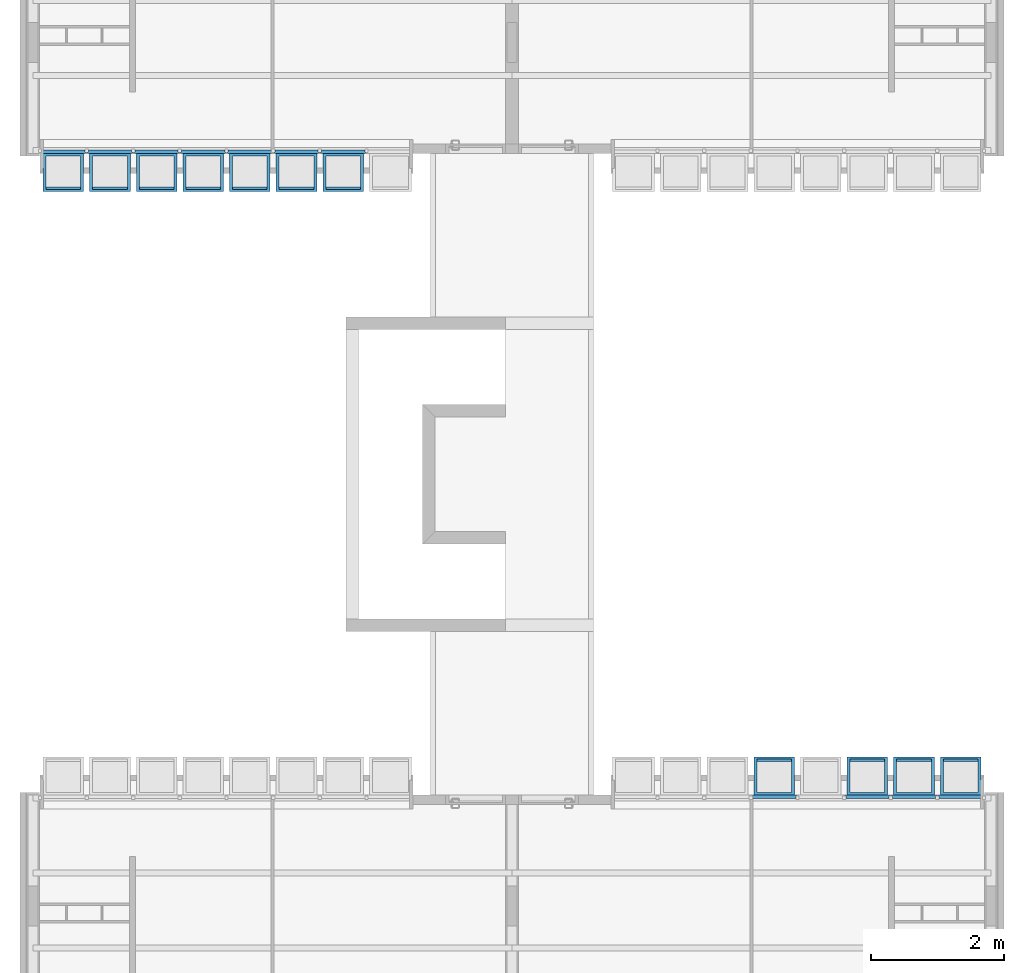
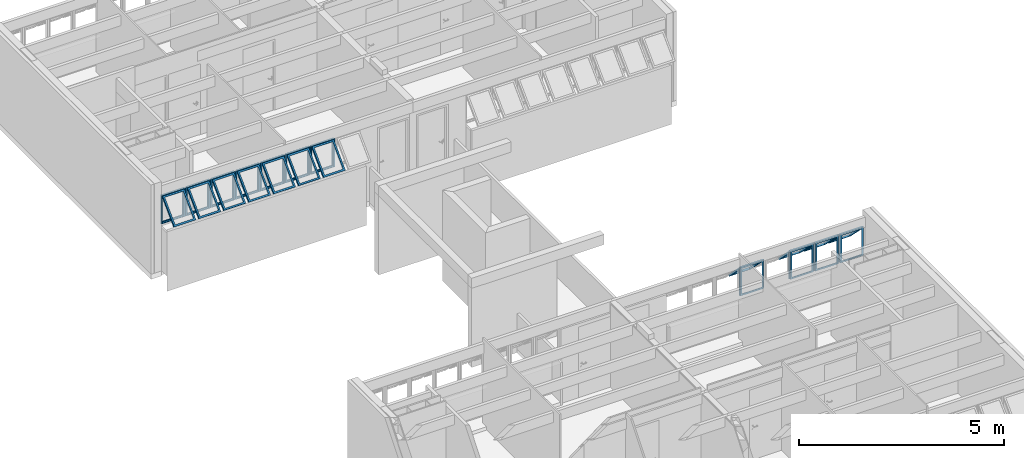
# One storey, part 31 of 37: 11 building element parts, 13 elements without a shape of their own.
"""IFC2X3 building model written with IfcOpenShell, lengths in millimetres."""

from ifc_helpers import new_model, entity, si_unit, converted_unit, derived_unit, money_unit, direction, frame, origin_with_axes, place, context, subcontext, project, spatial, faceted_brep, source, transform, mapped, material, type_object, element, aggregate, save


model = new_model("IFC2X3")

# Units and contexts
model_context = context("Model", 3, precision=0.01, world=origin_with_axes(), true_north=direction((0.0, 1.0)))
body_context = subcontext(model_context, "Body", "Model", "MODEL_VIEW")
ifc_project = project(units=[si_unit("LENGTHUNIT", "METRE", prefix="MILLI"), si_unit("AREAUNIT", "SQUARE_METRE"), si_unit("VOLUMEUNIT", "CUBIC_METRE"), converted_unit("PLANEANGLEUNIT", "DEGREE", entity("IfcPlaneAngleMeasure", 0.0174532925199), si_unit("PLANEANGLEUNIT", "RADIAN"), dimensions=[0, 0, 0, 0, 0, 0, 0]), money_unit("USD"), converted_unit("TIMEUNIT", "Year", entity("IfcTimeMeasure", 31556926.0), si_unit("TIMEUNIT", "SECOND"), dimensions=[0, 0, 1, 0, 0, 0, 0]), si_unit("MASSUNIT", "GRAM", prefix="KILO"), si_unit("THERMODYNAMICTEMPERATUREUNIT", "DEGREE_CELSIUS"), si_unit("LUMINOUSINTENSITYUNIT", "LUMEN"), si_unit("ENERGYUNIT", "JOULE", prefix="MEGA"), derived_unit("THERMALCONDUCTANCEUNIT", [(si_unit("POWERUNIT", "WATT"), 1), (si_unit("LENGTHUNIT", "METRE"), -1), (si_unit("THERMODYNAMICTEMPERATUREUNIT", "KELVIN"), -1)]), derived_unit("SPECIFICHEATCAPACITYUNIT", [(si_unit("ENERGYUNIT", "JOULE"), 1), (si_unit("MASSUNIT", "GRAM", prefix="KILO"), -1), (si_unit("THERMODYNAMICTEMPERATUREUNIT", "KELVIN"), -1)]), derived_unit("MASSDENSITYUNIT", [(si_unit("MASSUNIT", "GRAM", prefix="KILO"), 1), (si_unit("VOLUMEUNIT", "CUBIC_METRE"), -1)])], contexts=[model_context])

# Site, building, storey
site_placement = place(None, origin_with_axes())
site = spatial("IfcSite", under=ifc_project, at=site_placement, Name="Local", CompositionType="ELEMENT")
building_placement = place(site_placement, origin_with_axes())
building = spatial("IfcBuilding", under=site, at=building_placement, Name="Construção", CompositionType="ELEMENT")
storey_placement = place(building_placement, frame((0.0, 0.0, 5300.0), z_axis=(0.0, 0.0, 1.0), x_axis=(1.0, 0.0, 0.0)))
storey = spatial("IfcBuildingStorey", under=building, at=storey_placement, Name="Terceiro Pavimento", CompositionType="ELEMENT", Elevation=5300.0)

# Window, plates, building element parts
window_style = type_object("IfcWindowStyle", Name="Tipo de Parede Cortina", ConstructionType="NOTDEFINED", OperationType="NOTDEFINED", ParameterTakesPrecedence=False, Sizeable=False)
window_1_placement = place(storey_placement, frame((2750.0, 17910.0, 1355.00007107), z_axis=(0.0, 0.0, 1.0), x_axis=(1.0, 0.0, 0.0)))
window_1 = element("IfcWindow", 1, at=window_1_placement, inside=storey, type_object=window_style, Name="APTO11-JANELA-000")
plate_type = type_object("IfcPlateType", Name="Painel Principal 690 x 845 x 20", PredefinedType="CURTAIN_PANEL")
plate_1_placement = place(window_1_placement, frame((0.0, 0.0, 422.499964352), z_axis=(0.0, 0.0, 1.0), x_axis=(-1.0, 0.0, 0.0)))
plate_1 = element("IfcPlate", 2, at=plate_1_placement, type_object=plate_type, Name="APTO11-Painel-Prin-013")
ifc_material = material(Name="Alumínio")
shared_shape_1 = source(origin_with_axes(), body_context, "Body", "Brep", [
    faceted_brep([(25.0000036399, 0.0, -40.0), (674.999997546, 0.0, -40.0), (674.999997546, 0.0, -35.0), (25.0000036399, 0.0, -35.0), (70.0000036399, 45.0, -40.0), (629.999997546, 45.0, -40.0), (629.999997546, 45.0, -35.0), (70.0000036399, 45.0, -35.0)], [[[0, 1, 2, 3]], [[0, 4, 5, 1]], [[1, 5, 6, 2]], [[3, 2, 6, 7]], [[4, 0, 3, 7]], [[5, 4, 7, 6]]]),
    faceted_brep([(674.999997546, 0.0, -40.0), (674.999997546, 844.999891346, -40.0), (674.999997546, 844.999891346, -35.0), (674.999997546, 0.0, -35.0), (629.999997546, 45.0, -40.0), (629.999997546, 799.999891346, -40.0), (629.999997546, 799.999891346, -35.0), (629.999997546, 45.0, -35.0)], [[[0, 1, 2, 3]], [[0, 4, 5, 1]], [[1, 5, 6, 2]], [[3, 2, 6, 7]], [[4, 0, 3, 7]], [[5, 4, 7, 6]]]),
    faceted_brep([(25.0000036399, 844.999891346, -40.0), (70.0000036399, 799.999891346, -40.0), (70.0000036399, 799.999891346, -35.0), (25.0000036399, 844.999891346, -35.0), (674.999997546, 844.999891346, -40.0), (629.999997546, 799.999891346, -40.0), (629.999997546, 799.999891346, -35.0), (674.999997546, 844.999891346, -35.0)], [[[0, 1, 2, 3]], [[0, 4, 5, 1]], [[1, 5, 6, 2]], [[3, 2, 6, 7]], [[4, 0, 3, 7]], [[5, 4, 7, 6]]]),
    faceted_brep([(25.0000036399, 0.0, -40.0), (70.0000036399, 45.0, -40.0), (70.0000036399, 45.0, -35.0), (25.0000036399, 0.0, -35.0), (25.0000036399, 844.999891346, -40.0), (70.0000036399, 799.999891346, -40.0), (70.0000036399, 799.999891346, -35.0), (25.0000036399, 844.999891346, -35.0)], [[[0, 1, 2, 3]], [[0, 4, 5, 1]], [[1, 5, 6, 2]], [[3, 2, 6, 7]], [[4, 0, 3, 7]], [[5, 4, 7, 6]]]),
    faceted_brep([(25.0000036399, 0.0, -35.0), (674.999997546, 0.0, -35.0), (674.999997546, 0.0, 15.0), (25.0000036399, 0.0, 15.0), (45.0000036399, 20.0, -35.0), (654.999997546, 20.0, -35.0), (654.999997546, 20.0, 15.0), (45.0000036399, 20.0, 15.0)], [[[0, 1, 2, 3]], [[0, 4, 5, 1]], [[1, 5, 6, 2]], [[3, 2, 6, 7]], [[4, 0, 3, 7]], [[5, 4, 7, 6]]]),
    faceted_brep([(674.999997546, 0.0, -35.0), (674.999997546, 844.999891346, -35.0), (674.999997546, 844.999891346, 15.0), (674.999997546, 0.0, 15.0), (654.999997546, 20.0, -35.0), (654.999997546, 824.999891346, -35.0), (654.999997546, 824.999891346, 15.0), (654.999997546, 20.0, 15.0)], [[[0, 1, 2, 3]], [[0, 4, 5, 1]], [[1, 5, 6, 2]], [[3, 2, 6, 7]], [[4, 0, 3, 7]], [[5, 4, 7, 6]]]),
    faceted_brep([(25.0000036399, 844.999891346, -35.0), (45.0000036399, 824.999891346, -35.0), (45.0000036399, 824.999891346, 15.0), (25.0000036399, 844.999891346, 15.0), (674.999997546, 844.999891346, -35.0), (654.999997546, 824.999891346, -35.0), (654.999997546, 824.999891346, 15.0), (674.999997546, 844.999891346, 15.0)], [[[0, 1, 2, 3]], [[0, 4, 5, 1]], [[1, 5, 6, 2]], [[3, 2, 6, 7]], [[4, 0, 3, 7]], [[5, 4, 7, 6]]]),
    faceted_brep([(25.0000036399, 0.0, -35.0), (45.0000036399, 20.0, -35.0), (45.0000036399, 20.0, 15.0), (25.0000036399, 0.0, 15.0), (25.0000036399, 844.999891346, -35.0), (45.0000036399, 824.999891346, -35.0), (45.0000036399, 824.999891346, 15.0), (25.0000036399, 844.999891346, 15.0)], [[[0, 1, 2, 3]], [[0, 4, 5, 1]], [[1, 5, 6, 2]], [[3, 2, 6, 7]], [[4, 0, 3, 7]], [[5, 4, 7, 6]]]),
    faceted_brep([(694.999995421, 0.0, -10.0), (694.999995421, 844.999891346, -10.0), (694.999995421, 844.999891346, 10.0), (694.999995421, 0.0, 10.0), (674.999997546, 0.0, -10.0), (674.999997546, 844.999891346, -10.0), (674.999997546, 844.999891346, 10.0), (674.999997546, 0.0, 10.0)], [[[0, 1, 2, 3]], [[0, 4, 5, 1]], [[1, 5, 6, 2]], [[3, 2, 6, 7]], [[4, 0, 3, 7]], [[5, 4, 7, 6]]]),
    faceted_brep([(5.00000576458, 844.999891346, -10.0), (5.00000576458, 0.0, -10.0), (5.00000576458, 0.0, 10.0), (5.00000576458, 844.999891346, 10.0), (25.0000036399, 844.999891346, -10.0), (25.0000036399, 0.0, -10.0), (25.0000036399, 0.0, 10.0), (25.0000036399, 844.999891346, 10.0)], [[[0, 1, 2, 3]], [[0, 4, 5, 1]], [[1, 5, 6, 2]], [[3, 2, 6, 7]], [[4, 0, 3, 7]], [[5, 4, 7, 6]]]),
    faceted_brep([(90.0000036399, 252.243475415, 517.045737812), (90.0000036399, 757.824747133, 11.4644660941), (90.0000036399, 796.715620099, 50.3553390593), (90.0000036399, 291.13434838, 555.936610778), (45.0000036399, 220.423670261, 548.865542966), (45.0000036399, 789.644552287, -20.3553390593), (45.0000036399, 828.535425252, 18.5355339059), (45.0000036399, 259.314543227, 587.756415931)], [[[0, 1, 2, 3]], [[0, 4, 5, 1]], [[1, 5, 6, 2]], [[3, 2, 6, 7]], [[4, 0, 3, 7]], [[5, 4, 7, 6]]]),
    faceted_brep([(654.999997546, 220.423670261, 548.865542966), (654.999997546, 789.644552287, -20.3553390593), (654.999997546, 828.535425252, 18.5355339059), (654.999997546, 259.314543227, 587.756415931), (609.999997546, 252.243475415, 517.045737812), (609.999997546, 757.824747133, 11.4644660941), (609.999997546, 796.715620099, 50.3553390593), (609.999997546, 291.13434838, 555.936610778)], [[[0, 1, 2, 3]], [[0, 4, 5, 1]], [[1, 5, 6, 2]], [[3, 2, 6, 7]], [[4, 0, 3, 7]], [[5, 4, 7, 6]]]),
    faceted_brep([(654.999997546, 220.423670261, 548.865542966), (609.999997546, 252.243475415, 517.045737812), (609.999997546, 291.13434838, 555.936610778), (654.999997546, 259.314543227, 587.756415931), (45.0000036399, 220.423670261, 548.865542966), (90.0000036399, 252.243475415, 517.045737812), (90.0000036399, 291.13434838, 555.936610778), (45.0000036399, 259.314543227, 587.756415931)], [[[0, 1, 2, 3]], [[0, 4, 5, 1]], [[1, 5, 6, 2]], [[3, 2, 6, 7]], [[4, 0, 3, 7]], [[5, 4, 7, 6]]]),
    faceted_brep([(45.0000036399, 789.644552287, -20.3553390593), (90.0000036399, 757.824747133, 11.4644660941), (90.0000036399, 796.715620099, 50.3553390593), (45.0000036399, 828.535425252, 18.5355339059), (654.999997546, 789.644552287, -20.3553390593), (609.999997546, 757.824747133, 11.4644660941), (609.999997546, 796.715620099, 50.3553390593), (654.999997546, 828.535425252, 18.5355339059)], [[[0, 1, 2, 3]], [[0, 4, 5, 1]], [[1, 5, 6, 2]], [[3, 2, 6, 7]], [[4, 0, 3, 7]], [[5, 4, 7, 6]]]),
])
building_element_part_1_placement = place(plate_1_placement, origin_with_axes())
building_element_part_1 = element("IfcBuildingElementPart", 3, at=building_element_part_1_placement, material=ifc_material, Name="Alumínio", context=body_context, shape_type="MappedRepresentation", body=[
    mapped(shared_shape_1, transform((350.0, 0.0, -422.499964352), x_axis=(-1.0, 0.0, 0.0), y_axis=(0.0, 0.0, 1.0), z_axis=(0.0, 1.0, 0.0))),
])
aggregate(plate_1, [building_element_part_1])
plate_2_placement = place(window_1_placement, frame((2100.0, 0.0, 422.499964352), z_axis=(0.0, 0.0, 1.0), x_axis=(-1.0, 0.0, 0.0)))
plate_2 = element("IfcPlate", 4, at=plate_2_placement, type_object=plate_type, Name="APTO11-Painel-Prin-029")
building_element_part_2_placement = place(plate_2_placement, origin_with_axes())
building_element_part_2 = element("IfcBuildingElementPart", 5, at=building_element_part_2_placement, material=ifc_material, Name="Alumínio", context=body_context, shape_type="MappedRepresentation", body=[
    mapped(shared_shape_1, transform((350.0, 0.0, -422.499964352), x_axis=(-1.0, 0.0, 0.0), y_axis=(0.0, 0.0, 1.0), z_axis=(0.0, 1.0, 0.0))),
])
aggregate(plate_2, [building_element_part_2])

window_2_placement = place(storey_placement, frame((12020.0, 8250.0, 1355.00007107), z_axis=(0.0, 0.0, 1.0), x_axis=(1.0, 0.0, 0.0)))
window_2 = element("IfcWindow", 6, at=window_2_placement, inside=storey, type_object=window_style, Name="APTO10-JANELA-000")
plate_3_placement = place(window_2_placement, frame((2100.0, 0.0, 422.499998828), z_axis=(0.0, 0.0, 1.0), x_axis=(1.0, 0.0, 0.0)))
plate_3 = element("IfcPlate", 7, at=plate_3_placement, type_object=plate_type, Name="APTO10-Painel-Prin-013")
shared_shape_2 = source(origin_with_axes(), body_context, "Body", "Brep", [
    faceted_brep([(25.0000036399, 0.0, -40.0), (674.999997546, 0.0, -40.0), (674.999997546, 0.0, -35.0), (25.0000036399, 0.0, -35.0), (70.0000036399, 45.0, -40.0), (629.999997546, 45.0, -40.0), (629.999997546, 45.0, -35.0), (70.0000036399, 45.0, -35.0)], [[[0, 1, 2, 3]], [[0, 4, 5, 1]], [[1, 5, 6, 2]], [[3, 2, 6, 7]], [[4, 0, 3, 7]], [[5, 4, 7, 6]]]),
    faceted_brep([(674.999997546, 0.0, -40.0), (674.999997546, 844.999891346, -40.0), (674.999997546, 844.999891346, -35.0), (674.999997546, 0.0, -35.0), (629.999997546, 45.0, -40.0), (629.999997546, 799.999891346, -40.0), (629.999997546, 799.999891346, -35.0), (629.999997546, 45.0, -35.0)], [[[0, 1, 2, 3]], [[0, 4, 5, 1]], [[1, 5, 6, 2]], [[3, 2, 6, 7]], [[4, 0, 3, 7]], [[5, 4, 7, 6]]]),
    faceted_brep([(25.0000036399, 844.999891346, -40.0), (70.0000036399, 799.999891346, -40.0), (70.0000036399, 799.999891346, -35.0), (25.0000036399, 844.999891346, -35.0), (674.999997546, 844.999891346, -40.0), (629.999997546, 799.999891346, -40.0), (629.999997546, 799.999891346, -35.0), (674.999997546, 844.999891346, -35.0)], [[[0, 1, 2, 3]], [[0, 4, 5, 1]], [[1, 5, 6, 2]], [[3, 2, 6, 7]], [[4, 0, 3, 7]], [[5, 4, 7, 6]]]),
    faceted_brep([(25.0000036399, 0.0, -40.0), (70.0000036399, 45.0, -40.0), (70.0000036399, 45.0, -35.0), (25.0000036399, 0.0, -35.0), (25.0000036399, 844.999891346, -40.0), (70.0000036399, 799.999891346, -40.0), (70.0000036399, 799.999891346, -35.0), (25.0000036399, 844.999891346, -35.0)], [[[0, 1, 2, 3]], [[0, 4, 5, 1]], [[1, 5, 6, 2]], [[3, 2, 6, 7]], [[4, 0, 3, 7]], [[5, 4, 7, 6]]]),
    faceted_brep([(25.0000036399, 0.0, -35.0), (674.999997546, 0.0, -35.0), (674.999997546, 0.0, 15.0), (25.0000036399, 0.0, 15.0), (45.0000036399, 20.0, -35.0), (654.999997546, 20.0, -35.0), (654.999997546, 20.0, 15.0), (45.0000036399, 20.0, 15.0)], [[[0, 1, 2, 3]], [[0, 4, 5, 1]], [[1, 5, 6, 2]], [[3, 2, 6, 7]], [[4, 0, 3, 7]], [[5, 4, 7, 6]]]),
    faceted_brep([(674.999997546, 0.0, -35.0), (674.999997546, 844.999891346, -35.0), (674.999997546, 844.999891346, 15.0), (674.999997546, 0.0, 15.0), (654.999997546, 20.0, -35.0), (654.999997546, 824.999891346, -35.0), (654.999997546, 824.999891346, 15.0), (654.999997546, 20.0, 15.0)], [[[0, 1, 2, 3]], [[0, 4, 5, 1]], [[1, 5, 6, 2]], [[3, 2, 6, 7]], [[4, 0, 3, 7]], [[5, 4, 7, 6]]]),
    faceted_brep([(25.0000036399, 844.999891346, -35.0), (45.0000036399, 824.999891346, -35.0), (45.0000036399, 824.999891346, 15.0), (25.0000036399, 844.999891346, 15.0), (674.999997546, 844.999891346, -35.0), (654.999997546, 824.999891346, -35.0), (654.999997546, 824.999891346, 15.0), (674.999997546, 844.999891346, 15.0)], [[[0, 1, 2, 3]], [[0, 4, 5, 1]], [[1, 5, 6, 2]], [[3, 2, 6, 7]], [[4, 0, 3, 7]], [[5, 4, 7, 6]]]),
    faceted_brep([(25.0000036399, 0.0, -35.0), (45.0000036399, 20.0, -35.0), (45.0000036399, 20.0, 15.0), (25.0000036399, 0.0, 15.0), (25.0000036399, 844.999891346, -35.0), (45.0000036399, 824.999891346, -35.0), (45.0000036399, 824.999891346, 15.0), (25.0000036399, 844.999891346, 15.0)], [[[0, 1, 2, 3]], [[0, 4, 5, 1]], [[1, 5, 6, 2]], [[3, 2, 6, 7]], [[4, 0, 3, 7]], [[5, 4, 7, 6]]]),
    faceted_brep([(694.999995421, 0.0, -10.0), (694.999995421, 844.999891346, -10.0), (694.999995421, 844.999891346, 10.0), (694.999995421, 0.0, 10.0), (674.999997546, 0.0, -10.0), (674.999997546, 844.999891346, -10.0), (674.999997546, 844.999891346, 10.0), (674.999997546, 0.0, 10.0)], [[[0, 1, 2, 3]], [[0, 4, 5, 1]], [[1, 5, 6, 2]], [[3, 2, 6, 7]], [[4, 0, 3, 7]], [[5, 4, 7, 6]]]),
    faceted_brep([(5.00000576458, 844.999891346, -10.0), (5.00000576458, 0.0, -10.0), (5.00000576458, 0.0, 10.0), (5.00000576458, 844.999891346, 10.0), (25.0000036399, 844.999891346, -10.0), (25.0000036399, 0.0, -10.0), (25.0000036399, 0.0, 10.0), (25.0000036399, 844.999891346, 10.0)], [[[0, 1, 2, 3]], [[0, 4, 5, 1]], [[1, 5, 6, 2]], [[3, 2, 6, 7]], [[4, 0, 3, 7]], [[5, 4, 7, 6]]]),
    faceted_brep([(90.0000036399, 252.243475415, 517.045737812), (90.0000036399, 757.824747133, 11.4644660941), (90.0000036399, 796.715620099, 50.3553390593), (90.0000036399, 291.13434838, 555.936610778), (45.0000036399, 220.423670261, 548.865542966), (45.0000036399, 789.644552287, -20.3553390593), (45.0000036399, 828.535425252, 18.5355339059), (45.0000036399, 259.314543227, 587.756415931)], [[[0, 1, 2, 3]], [[0, 4, 5, 1]], [[1, 5, 6, 2]], [[3, 2, 6, 7]], [[4, 0, 3, 7]], [[5, 4, 7, 6]]]),
    faceted_brep([(654.999997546, 220.423670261, 548.865542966), (654.999997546, 789.644552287, -20.3553390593), (654.999997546, 828.535425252, 18.5355339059), (654.999997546, 259.314543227, 587.756415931), (609.999997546, 252.243475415, 517.045737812), (609.999997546, 757.824747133, 11.4644660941), (609.999997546, 796.715620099, 50.3553390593), (609.999997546, 291.13434838, 555.936610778)], [[[0, 1, 2, 3]], [[0, 4, 5, 1]], [[1, 5, 6, 2]], [[3, 2, 6, 7]], [[4, 0, 3, 7]], [[5, 4, 7, 6]]]),
    faceted_brep([(654.999997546, 220.423670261, 548.865542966), (609.999997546, 252.243475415, 517.045737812), (609.999997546, 291.13434838, 555.936610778), (654.999997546, 259.314543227, 587.756415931), (45.0000036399, 220.423670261, 548.865542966), (90.0000036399, 252.243475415, 517.045737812), (90.0000036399, 291.13434838, 555.936610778), (45.0000036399, 259.314543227, 587.756415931)], [[[0, 1, 2, 3]], [[0, 4, 5, 1]], [[1, 5, 6, 2]], [[3, 2, 6, 7]], [[4, 0, 3, 7]], [[5, 4, 7, 6]]]),
    faceted_brep([(45.0000036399, 789.644552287, -20.3553390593), (90.0000036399, 757.824747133, 11.4644660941), (90.0000036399, 796.715620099, 50.3553390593), (45.0000036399, 828.535425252, 18.5355339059), (654.999997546, 789.644552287, -20.3553390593), (609.999997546, 757.824747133, 11.4644660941), (609.999997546, 796.715620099, 50.3553390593), (654.999997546, 828.535425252, 18.5355339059)], [[[0, 1, 2, 3]], [[0, 4, 5, 1]], [[1, 5, 6, 2]], [[3, 2, 6, 7]], [[4, 0, 3, 7]], [[5, 4, 7, 6]]]),
])
building_element_part_3_placement = place(plate_3_placement, origin_with_axes())
building_element_part_3 = element("IfcBuildingElementPart", 8, at=building_element_part_3_placement, material=ifc_material, Name="Alumínio", context=body_context, shape_type="MappedRepresentation", body=[
    mapped(shared_shape_2, transform((350.0, 0.0, -422.499998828), x_axis=(-1.0, 0.0, 0.0), y_axis=(0.0, 0.0, 1.0), z_axis=(0.0, 1.0, 0.0))),
])
aggregate(plate_3, [building_element_part_3])
plate_4_placement = place(window_2_placement, frame((1400.0, 0.0, 422.499964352), z_axis=(0.0, 0.0, 1.0), x_axis=(1.0, 0.0, 0.0)))
plate_4 = element("IfcPlate", 9, at=plate_4_placement, type_object=plate_type, Name="APTO10-Painel-Prin-013")
building_element_part_4_placement = place(plate_4_placement, origin_with_axes())
building_element_part_4 = element("IfcBuildingElementPart", 10, at=building_element_part_4_placement, material=ifc_material, Name="Alumínio", context=body_context, shape_type="MappedRepresentation", body=[
    mapped(shared_shape_2, transform((350.0, 0.0, -422.499964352), x_axis=(-1.0, 0.0, 0.0), y_axis=(0.0, 0.0, 1.0), z_axis=(0.0, 1.0, 0.0))),
])
aggregate(plate_4, [building_element_part_4])

# Plate, building element part
plate_5_placement = place(window_1_placement, frame((-2100.0, 0.0, 422.499998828), z_axis=(0.0, 0.0, 1.0), x_axis=(-1.0, 0.0, 0.0)))
plate_5 = element("IfcPlate", 11, at=plate_5_placement, type_object=plate_type, Name="APTO11-Painel-Prin-013")
building_element_part_5_placement = place(plate_5_placement, origin_with_axes())
building_element_part_5 = element("IfcBuildingElementPart", 12, at=building_element_part_5_placement, material=ifc_material, Name="Alumínio", context=body_context, shape_type="MappedRepresentation", body=[
    mapped(shared_shape_2, transform((350.0, 0.0, -422.499998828), x_axis=(-1.0, 0.0, 0.0), y_axis=(0.0, 0.0, 1.0), z_axis=(0.0, 1.0, 0.0))),
])
aggregate(plate_5, [building_element_part_5])

plate_6_placement = place(window_1_placement, frame((-1400.0, 0.0, 422.499964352), z_axis=(0.0, 0.0, 1.0), x_axis=(-1.0, 0.0, 0.0)))
plate_6 = element("IfcPlate", 13, at=plate_6_placement, type_object=plate_type, Name="APTO11-Painel-Prin-013")
building_element_part_6_placement = place(plate_6_placement, origin_with_axes())
building_element_part_6 = element("IfcBuildingElementPart", 14, at=building_element_part_6_placement, material=ifc_material, Name="Alumínio", context=body_context, shape_type="MappedRepresentation", body=[
    mapped(shared_shape_2, transform((350.0, 0.0, -422.499964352), x_axis=(-1.0, 0.0, 0.0), y_axis=(0.0, 0.0, 1.0), z_axis=(0.0, 1.0, 0.0))),
])
aggregate(plate_6, [building_element_part_6])

plate_7_placement = place(window_1_placement, frame((1400.0, 0.0, 422.499964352), z_axis=(0.0, 0.0, 1.0), x_axis=(-1.0, 0.0, 0.0)))
plate_7 = element("IfcPlate", 15, at=plate_7_placement, type_object=plate_type, Name="APTO11-Painel-Prin-025")
building_element_part_7_placement = place(plate_7_placement, origin_with_axes())
building_element_part_7 = element("IfcBuildingElementPart", 16, at=building_element_part_7_placement, material=ifc_material, Name="Alumínio", context=body_context, shape_type="MappedRepresentation", body=[
    mapped(shared_shape_2, transform((350.0, 0.0, -422.499964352), x_axis=(-1.0, 0.0, 0.0), y_axis=(0.0, 0.0, 1.0), z_axis=(0.0, 1.0, 0.0))),
])
aggregate(plate_7, [building_element_part_7])

plate_8_placement = place(window_2_placement, frame((-700.0, 0.0, 422.499964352), z_axis=(0.0, 0.0, 1.0), x_axis=(1.0, 0.0, 0.0)))
plate_8 = element("IfcPlate", 17, at=plate_8_placement, type_object=plate_type, Name="APTO10-Painel-Prin-013")
shared_shape_3 = source(origin_with_axes(), body_context, "Body", "Brep", [
    faceted_brep([(25.0000036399, 0.0, -40.0), (674.999997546, 0.0, -40.0), (674.999997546, 0.0, -35.0), (25.0000036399, 0.0, -35.0), (70.0000036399, 45.0, -40.0), (629.999997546, 45.0, -40.0), (629.999997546, 45.0, -35.0), (70.0000036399, 45.0, -35.0)], [[[0, 1, 2, 3]], [[0, 4, 5, 1]], [[1, 5, 6, 2]], [[3, 2, 6, 7]], [[4, 0, 3, 7]], [[5, 4, 7, 6]]]),
    faceted_brep([(674.999997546, 0.0, -40.0), (674.999997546, 844.999891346, -40.0), (674.999997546, 844.999891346, -35.0), (674.999997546, 0.0, -35.0), (629.999997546, 45.0, -40.0), (629.999997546, 799.999891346, -40.0), (629.999997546, 799.999891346, -35.0), (629.999997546, 45.0, -35.0)], [[[0, 1, 2, 3]], [[0, 4, 5, 1]], [[1, 5, 6, 2]], [[3, 2, 6, 7]], [[4, 0, 3, 7]], [[5, 4, 7, 6]]]),
    faceted_brep([(25.0000036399, 844.999891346, -40.0), (70.0000036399, 799.999891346, -40.0), (70.0000036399, 799.999891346, -35.0), (25.0000036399, 844.999891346, -35.0), (674.999997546, 844.999891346, -40.0), (629.999997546, 799.999891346, -40.0), (629.999997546, 799.999891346, -35.0), (674.999997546, 844.999891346, -35.0)], [[[0, 1, 2, 3]], [[0, 4, 5, 1]], [[1, 5, 6, 2]], [[3, 2, 6, 7]], [[4, 0, 3, 7]], [[5, 4, 7, 6]]]),
    faceted_brep([(25.0000036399, 0.0, -40.0), (70.0000036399, 45.0, -40.0), (70.0000036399, 45.0, -35.0), (25.0000036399, 0.0, -35.0), (25.0000036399, 844.999891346, -40.0), (70.0000036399, 799.999891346, -40.0), (70.0000036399, 799.999891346, -35.0), (25.0000036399, 844.999891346, -35.0)], [[[0, 1, 2, 3]], [[0, 4, 5, 1]], [[1, 5, 6, 2]], [[3, 2, 6, 7]], [[4, 0, 3, 7]], [[5, 4, 7, 6]]]),
    faceted_brep([(25.0000036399, 0.0, -35.0), (674.999997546, 0.0, -35.0), (674.999997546, 0.0, 15.0), (25.0000036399, 0.0, 15.0), (45.0000036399, 20.0, -35.0), (654.999997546, 20.0, -35.0), (654.999997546, 20.0, 15.0), (45.0000036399, 20.0, 15.0)], [[[0, 1, 2, 3]], [[0, 4, 5, 1]], [[1, 5, 6, 2]], [[3, 2, 6, 7]], [[4, 0, 3, 7]], [[5, 4, 7, 6]]]),
    faceted_brep([(674.999997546, 0.0, -35.0), (674.999997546, 844.999891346, -35.0), (674.999997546, 844.999891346, 15.0), (674.999997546, 0.0, 15.0), (654.999997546, 20.0, -35.0), (654.999997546, 824.999891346, -35.0), (654.999997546, 824.999891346, 15.0), (654.999997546, 20.0, 15.0)], [[[0, 1, 2, 3]], [[0, 4, 5, 1]], [[1, 5, 6, 2]], [[3, 2, 6, 7]], [[4, 0, 3, 7]], [[5, 4, 7, 6]]]),
    faceted_brep([(25.0000036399, 844.999891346, -35.0), (45.0000036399, 824.999891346, -35.0), (45.0000036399, 824.999891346, 15.0), (25.0000036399, 844.999891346, 15.0), (674.999997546, 844.999891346, -35.0), (654.999997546, 824.999891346, -35.0), (654.999997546, 824.999891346, 15.0), (674.999997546, 844.999891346, 15.0)], [[[0, 1, 2, 3]], [[0, 4, 5, 1]], [[1, 5, 6, 2]], [[3, 2, 6, 7]], [[4, 0, 3, 7]], [[5, 4, 7, 6]]]),
    faceted_brep([(25.0000036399, 0.0, -35.0), (45.0000036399, 20.0, -35.0), (45.0000036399, 20.0, 15.0), (25.0000036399, 0.0, 15.0), (25.0000036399, 844.999891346, -35.0), (45.0000036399, 824.999891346, -35.0), (45.0000036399, 824.999891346, 15.0), (25.0000036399, 844.999891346, 15.0)], [[[0, 1, 2, 3]], [[0, 4, 5, 1]], [[1, 5, 6, 2]], [[3, 2, 6, 7]], [[4, 0, 3, 7]], [[5, 4, 7, 6]]]),
    faceted_brep([(694.999995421, 0.0, -10.0), (694.999995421, 844.999891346, -10.0), (694.999995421, 844.999891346, 10.0), (694.999995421, 0.0, 10.0), (674.999997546, 0.0, -10.0), (674.999997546, 844.999891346, -10.0), (674.999997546, 844.999891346, 10.0), (674.999997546, 0.0, 10.0)], [[[0, 1, 2, 3]], [[0, 4, 5, 1]], [[1, 5, 6, 2]], [[3, 2, 6, 7]], [[4, 0, 3, 7]], [[5, 4, 7, 6]]]),
    faceted_brep([(5.00000576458, 844.999891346, -10.0), (5.00000576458, 0.0, -10.0), (5.00000576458, 0.0, 10.0), (5.00000576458, 844.999891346, 10.0), (25.0000036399, 844.999891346, -10.0), (25.0000036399, 0.0, -10.0), (25.0000036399, 0.0, 10.0), (25.0000036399, 844.999891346, 10.0)], [[[0, 1, 2, 3]], [[0, 4, 5, 1]], [[1, 5, 6, 2]], [[3, 2, 6, 7]], [[4, 0, 3, 7]], [[5, 4, 7, 6]]]),
    faceted_brep([(90.0000036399, 252.243475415, 517.045737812), (90.0000036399, 757.824747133, 11.4644660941), (90.0000036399, 796.715620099, 50.3553390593), (90.0000036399, 291.13434838, 555.936610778), (45.0000036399, 220.423670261, 548.865542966), (45.0000036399, 789.644552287, -20.3553390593), (45.0000036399, 828.535425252, 18.5355339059), (45.0000036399, 259.314543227, 587.756415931)], [[[0, 1, 2, 3]], [[0, 4, 5, 1]], [[1, 5, 6, 2]], [[3, 2, 6, 7]], [[4, 0, 3, 7]], [[5, 4, 7, 6]]]),
    faceted_brep([(654.999997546, 220.423670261, 548.865542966), (654.999997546, 789.644552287, -20.3553390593), (654.999997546, 828.535425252, 18.5355339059), (654.999997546, 259.314543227, 587.756415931), (609.999997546, 252.243475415, 517.045737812), (609.999997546, 757.824747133, 11.4644660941), (609.999997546, 796.715620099, 50.3553390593), (609.999997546, 291.13434838, 555.936610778)], [[[0, 1, 2, 3]], [[0, 4, 5, 1]], [[1, 5, 6, 2]], [[3, 2, 6, 7]], [[4, 0, 3, 7]], [[5, 4, 7, 6]]]),
    faceted_brep([(654.999997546, 220.423670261, 548.865542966), (609.999997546, 252.243475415, 517.045737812), (609.999997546, 291.13434838, 555.936610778), (654.999997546, 259.314543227, 587.756415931), (45.0000036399, 220.423670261, 548.865542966), (90.0000036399, 252.243475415, 517.045737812), (90.0000036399, 291.13434838, 555.936610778), (45.0000036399, 259.314543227, 587.756415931)], [[[0, 1, 2, 3]], [[0, 4, 5, 1]], [[1, 5, 6, 2]], [[3, 2, 6, 7]], [[4, 0, 3, 7]], [[5, 4, 7, 6]]]),
    faceted_brep([(45.0000036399, 789.644552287, -20.3553390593), (90.0000036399, 757.824747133, 11.4644660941), (90.0000036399, 796.715620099, 50.3553390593), (45.0000036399, 828.535425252, 18.5355339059), (654.999997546, 789.644552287, -20.3553390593), (609.999997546, 757.824747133, 11.4644660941), (609.999997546, 796.715620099, 50.3553390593), (654.999997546, 828.535425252, 18.5355339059)], [[[0, 1, 2, 3]], [[0, 4, 5, 1]], [[1, 5, 6, 2]], [[3, 2, 6, 7]], [[4, 0, 3, 7]], [[5, 4, 7, 6]]]),
])
building_element_part_8_placement = place(plate_8_placement, origin_with_axes())
building_element_part_8 = element("IfcBuildingElementPart", 18, at=building_element_part_8_placement, material=ifc_material, Name="Alumínio", context=body_context, shape_type="MappedRepresentation", body=[
    mapped(shared_shape_3, transform((350.0, 0.0, -422.499964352), x_axis=(-1.0, 0.0, 0.0), y_axis=(0.0, 0.0, 1.0), z_axis=(0.0, 1.0, 0.0))),
])
aggregate(plate_8, [building_element_part_8])

# Plate
plate_9_placement = place(window_2_placement, frame((700.0, 0.0, 422.499964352), z_axis=(0.0, 0.0, 1.0), x_axis=(1.0, 0.0, 0.0)))
plate_9 = element("IfcPlate", 19, at=plate_9_placement, type_object=plate_type, Name="APTO10-Painel-Prin-013")

aggregate(window_2, [plate_3, plate_4, plate_8, plate_9])

# Building element part
building_element_part_9_placement = place(plate_9_placement, origin_with_axes())
building_element_part_9 = element("IfcBuildingElementPart", 20, at=building_element_part_9_placement, material=ifc_material, Name="Alumínio", context=body_context, shape_type="MappedRepresentation", body=[
    mapped(shared_shape_3, transform((350.0, 0.0, -422.499964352), x_axis=(-1.0, 0.0, 0.0), y_axis=(0.0, 0.0, 1.0), z_axis=(0.0, 1.0, 0.0))),
])

aggregate(plate_9, [building_element_part_9])

# Plate, building element part
plate_10_placement = place(window_1_placement, frame((700.0, 0.0, 422.499964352), z_axis=(0.0, 0.0, 1.0), x_axis=(-1.0, 0.0, 0.0)))
plate_10 = element("IfcPlate", 21, at=plate_10_placement, type_object=plate_type, Name="APTO11-Painel-Prin-013")
building_element_part_10_placement = place(plate_10_placement, origin_with_axes())
building_element_part_10 = element("IfcBuildingElementPart", 22, at=building_element_part_10_placement, material=ifc_material, Name="Alumínio", context=body_context, shape_type="MappedRepresentation", body=[
    mapped(shared_shape_3, transform((350.0, 0.0, -422.499964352), x_axis=(-1.0, 0.0, 0.0), y_axis=(0.0, 0.0, 1.0), z_axis=(0.0, 1.0, 0.0))),
])
aggregate(plate_10, [building_element_part_10])

# Plate
plate_11_placement = place(window_1_placement, frame((-700.0, 0.0, 422.499964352), z_axis=(0.0, 0.0, 1.0), x_axis=(-1.0, 0.0, 0.0)))
plate_11 = element("IfcPlate", 23, at=plate_11_placement, type_object=plate_type, Name="APTO11-Painel-Prin-013")

aggregate(window_1, [plate_1, plate_2, plate_5, plate_6, plate_10, plate_7, plate_11])

# Building element part
building_element_part_11_placement = place(plate_11_placement, origin_with_axes())
building_element_part_11 = element("IfcBuildingElementPart", 24, at=building_element_part_11_placement, material=ifc_material, Name="Alumínio", context=body_context, shape_type="MappedRepresentation", body=[
    mapped(shared_shape_3, transform((350.0, 0.0, -422.499964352), x_axis=(-1.0, 0.0, 0.0), y_axis=(0.0, 0.0, 1.0), z_axis=(0.0, 1.0, 0.0))),
])

aggregate(plate_11, [building_element_part_11])

save(model, "model.ifc")
